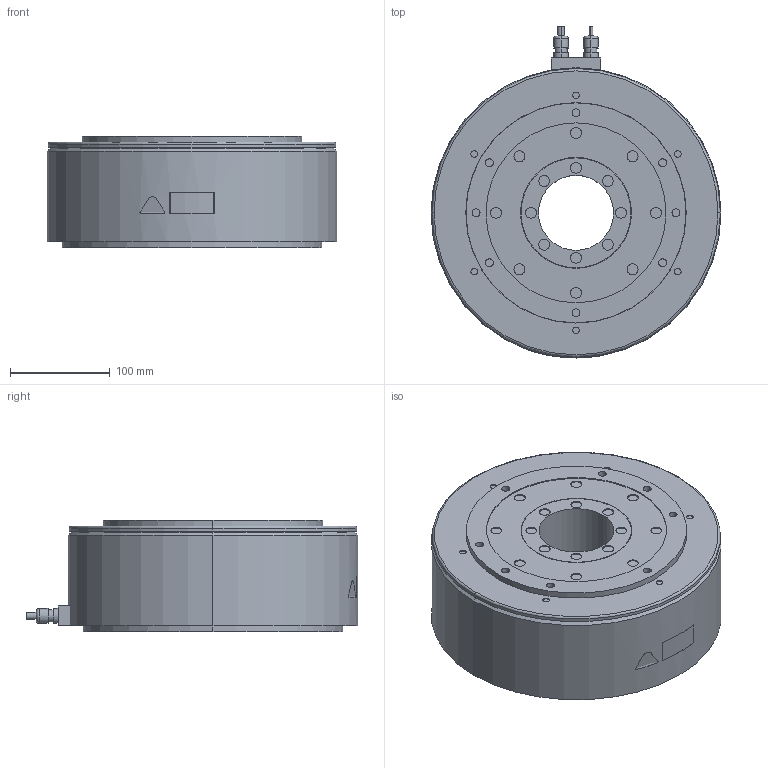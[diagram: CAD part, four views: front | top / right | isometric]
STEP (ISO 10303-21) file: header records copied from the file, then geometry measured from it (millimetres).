
FILE_DESCRIPTION (( 'STEP AP203' ), '1' );
FILE_NAME ('sgm7e_35e_a4_.STEP', '2016-05-30T08:05:47', ( '' ), ( '' ), 'SwSTEP 2.0', 'SolidWorks 2010', '' );
FILE_SCHEMA (( 'CONFIG_CONTROL_DESIGN' ));
Length unit declared in the file: millimetre
Products named in the file (1): sgm7e_35e_a4_
Bounding box: 290 x 332 x 112 mm (x, y, z)
Volume: 6625660.7 mm3; surface area: 263719.4 mm2
Topology: 1 solids, 1 shells, 234 faces, 480 edges, 316 vertices
Faces by surface type: cylinder 138, plane 81, torus 6, bspline 5, cone 4
Entity records: 6691 total; most frequent: CARTESIAN_POINT 1392, DIRECTION 1220, ORIENTED_EDGE 960, AXIS2_PLACEMENT_3D 526, EDGE_CURVE 480, VERTEX_POINT 316, EDGE_LOOP 304, CIRCLE 296
